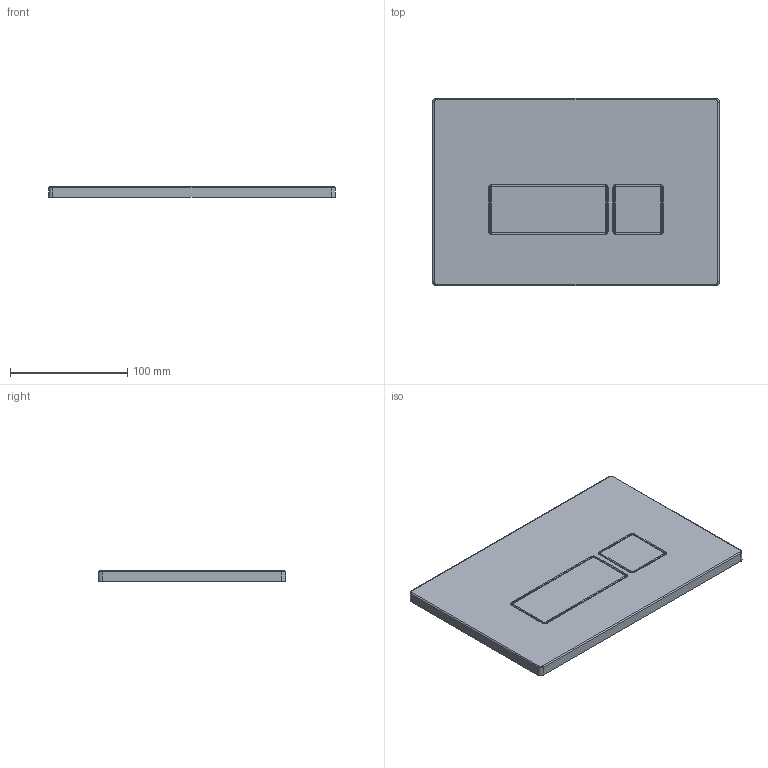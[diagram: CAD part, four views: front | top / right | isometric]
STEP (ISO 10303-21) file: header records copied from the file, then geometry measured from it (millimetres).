
FILE_DESCRIPTION(('FreeCAD Model'),'2;1');
FILE_NAME('Open CASCADE Shape Model','2025-05-30T21:12:15',(''),(''), 'Open CASCADE STEP processor 7.8','FreeCAD','Unknown');
FILE_SCHEMA(('AUTOMOTIVE_DESIGN { 1 0 10303 214 1 1 1 1 }'));
Length unit declared in the file: millimetre
Products named in the file (2): TopLevelAssembly; Po\X2\01420105\X0\czona geometria bry\X2\0142\X0\owa
Assembly tree (1 placements, depth 2):
  TopLevelAssembly
    Po\X2\01420105\X0\czona geometria bry\X2\0142\X0\owa
Bounding box: 245 x 160 x 9 mm (x, y, z)
Volume: 349168.3 mm3; surface area: 89242.9 mm2
Topology: 1 solids, 1 shells, 86 faces, 200 edges, 120 vertices
Faces by surface type: cylinder 36, plane 26, bspline 24
Entity records: 2568 total; most frequent: CARTESIAN_POINT 588, DIRECTION 428, ORIENTED_EDGE 400, EDGE_CURVE 200, AXIS2_PLACEMENT_3D 164, VERTEX_POINT 120, CIRCLE 100, LINE 100
